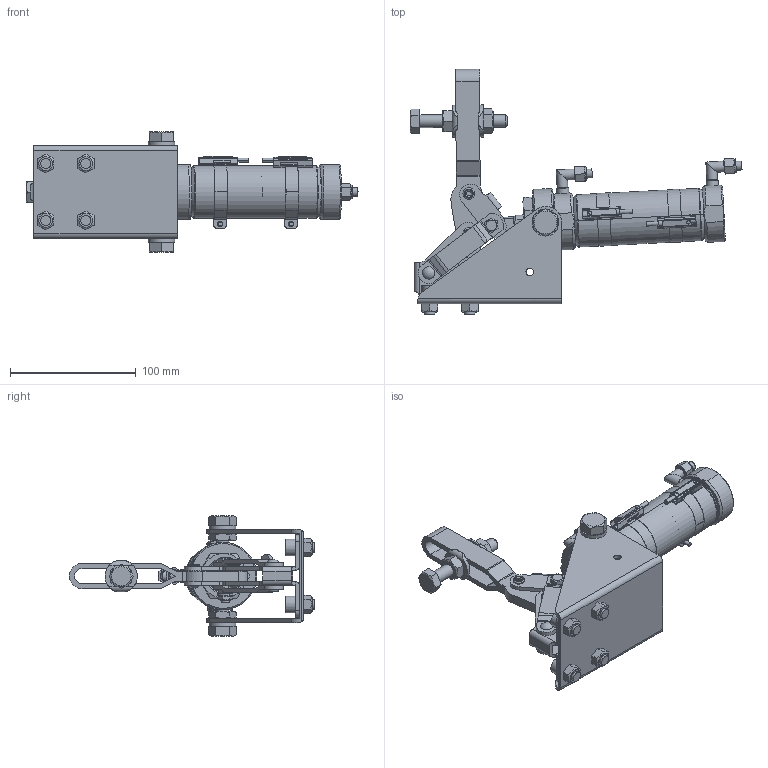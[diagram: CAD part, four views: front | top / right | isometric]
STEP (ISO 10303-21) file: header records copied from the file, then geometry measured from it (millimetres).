
FILE_DESCRIPTION(/* description */ (''),/* implementation_level */ '2;1');
FILE_NAME(/* name */ 'D:\3D作業領域\3D\AC650S\No.AC650S(ul).stp',/* time_stamp */ '2021-11-09T11:47:37+09:00',/* author */ ('y-takahashi'),/* organization */ (''),/* preprocessor_version */ 'ST-DEVELOPER v18',/* originating_system */ 'Autodesk Inventor 2020',/* authorisation */ '');
FILE_SCHEMA (('AUTOMOTIVE_DESIGN { 1 0 10303 214 3 1 1 }'));
Length unit declared in the file: millimetre
Products named in the file (35): AC650S(ul); AC650フレーム; AC650フレーム_1; コンタルナットM12; AC650シリンダー支持ボルト; AC650SW; HV650ベース1（リベットアセンブリ済）; HV650ベース1; リベット6×15（ナベ平中空）; HV650アームa; HV650リンク1（リベットアセンブリ済）; HV650リンク1; リベット6×14.8（ナベ平中空）; AC650レバー; AC650レバー_1; リベット6×21（ナベ平中空）; AC650シリンダー連結ボルト; M6SW; コンタルナットM6; AC650Sシリンダー(CMK2-00-40-62-T0H-D
-V); CMK2-00-40-62-T0H-D-V_4; CMK2-00-40-62-T0H-D-V_5; CMK2-00-40-62-T0H-D-V_6; AC650S取付金具リング; 100SAC650S取付金具ヘッドボルト; CMK2-00-40-62-T0H-D-V_1; ニップルL型; ニップルL型_1; 袋ナット; スリーブb; M10×70ボルト; M10丸座金; M10ナット; キャップスクリューM8; M8ナット
Assembly tree (46 placements, depth 3):
  AC650S(ul)
    AC650フレーム
      AC650フレーム_1
      コンタルナットM12  x2
      AC650シリンダー支持ボルト  x2
      AC650SW  x2
    HV650ベース1（リベットアセンブリ済）
      HV650ベース1
      リベット6×15（ナベ平中空）
    HV650アームa
    HV650リンク1（リベットアセンブリ済）
      HV650リンク1
      リベット6×14.8（ナベ平中空）
    AC650レバー
      AC650レバー_1
      リベット6×21（ナベ平中空）
      AC650シリンダー連結ボルト
      M6SW
      コンタルナットM6  x2
    AC650Sシリンダー(CMK2-00-40-62-T0H-D
-V)
      CMK2-00-40-62-T0H-D-V_4
      CMK2-00-40-62-T0H-D-V_5
      CMK2-00-40-62-T0H-D-V_6
      AC650S取付金具リング
      100SAC650S取付金具ヘッドボルト
    CMK2-00-40-62-T0H-D-V_1
    ニップルL型  x2
      ニップルL型_1
      袋ナット
      スリーブb
    M10×70ボルト
    M10丸座金
    M10ナット  x2
    キャップスクリューM8  x4
    M8ナット  x4
Bounding box: 263.65 x 194.84 x 96 mm (x, y, z)
Volume: 331835.7 mm3; surface area: 184121.1 mm2
Topology: 44 solids, 44 shells, 880 faces, 2228 edges, 1478 vertices
Faces by surface type: plane 497, cylinder 297, cone 73, torus 6, bspline 4, sphere 3
Full cylindrical faces by diameter (mm): 3 x2, 4 x5, 4.5 x4, 5.9 x3, 5.98 x3, 6 x17, 6.1 x1, 6.5 x3, 7 x2, 7.3 x2, 8 x8, 8.2 x2, 8.3 x4, 8.4 x4, 8.5 x4, 9.2 x3, 9.5 x1, 9.7 x4, 10 x9, 10.4 x2, 11 x2, 12 x5, 12.1 x2, 12.5 x2, 13 x4, 21.2 x2, 26 x1, 30 x2, 40 x1, 53.5 x1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
Entity records: 24390 total; most frequent: CARTESIAN_POINT 4823, DIRECTION 3985, ORIENTED_EDGE 3728, EDGE_CURVE 1864, AXIS2_PLACEMENT_3D 1465, VERTEX_POINT 1236, LINE 1055, VECTOR 1055
